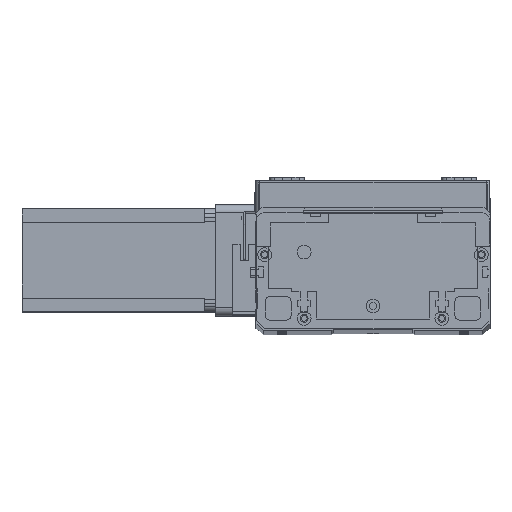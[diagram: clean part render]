
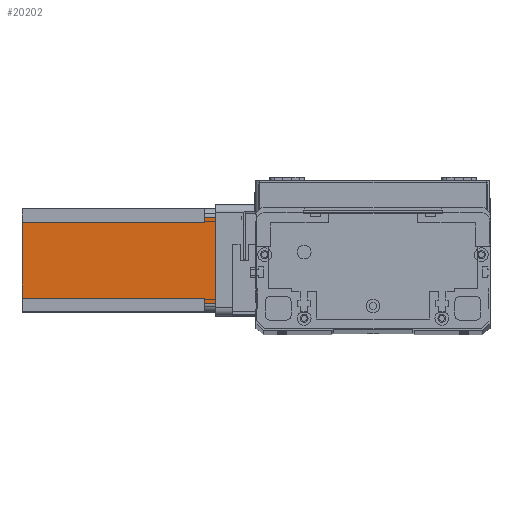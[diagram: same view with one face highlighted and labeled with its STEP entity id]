
A CAD part, top view. The second image highlights one B-rep face of the part: STEP entity #20202.
In plain terms, the highlighted planar face has unit normal (0, 0, 1) as drawn and (0, -1, 0) by its records, which use the part's own axes.
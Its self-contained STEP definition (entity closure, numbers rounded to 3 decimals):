
#33 = VERTEX_POINT ( 'NONE', #15171 ) ;
#75 = ORIENTED_EDGE ( 'NONE', *, *, #24937, .F. ) ;
#1086 = CARTESIAN_POINT ( 'NONE',  ( 8., 0., -112.5 ) ) ;
#1965 = FACE_OUTER_BOUND ( 'NONE', #15355, .T. ) ;
#2175 = DIRECTION ( 'NONE',  ( 1., 0., 0. ) ) ;
#2241 = DIRECTION ( 'NONE',  ( -1., 0., 0. ) ) ;
#2275 = CARTESIAN_POINT ( 'NONE',  ( 0., 0., -112.5 ) ) ;
#3045 = VERTEX_POINT ( 'NONE', #15827 ) ;
#3062 = DIRECTION ( 'NONE',  ( 0., 0., 1. ) ) ;
#4381 = DIRECTION ( 'NONE',  ( 0., 0., -1. ) ) ;
#4941 = VERTEX_POINT ( 'NONE', #12458 ) ;
#4942 = ORIENTED_EDGE ( 'NONE', *, *, #19874, .T. ) ;
#5164 = CARTESIAN_POINT ( 'NONE',  ( 52., 0., -112.5 ) ) ;
#5320 = DIRECTION ( 'NONE',  ( 0., 0., -1. ) ) ;
#7248 = VERTEX_POINT ( 'NONE', #1086 ) ;
#7495 = LINE ( 'NONE', #11116, #12390 ) ;
#7649 = CARTESIAN_POINT ( 'NONE',  ( 52., 0., -6.5 ) ) ;
#7712 = CARTESIAN_POINT ( 'NONE',  ( 5., 0., 0. ) ) ;
#8362 = CARTESIAN_POINT ( 'NONE',  ( 55., 0., -112.5 ) ) ;
#10096 = LINE ( 'NONE', #16724, #21442 ) ;
#10804 = VECTOR ( 'NONE', #3062, 1000. ) ;
#11116 = CARTESIAN_POINT ( 'NONE',  ( 0., 0., -112.5 ) ) ;
#11467 = CARTESIAN_POINT ( 'NONE',  ( 8., 0., -112.5 ) ) ;
#11813 = AXIS2_PLACEMENT_3D ( 'NONE', #2275, #16825, #4381 ) ;
#11850 = VERTEX_POINT ( 'NONE', #5164 ) ;
#12259 = ORIENTED_EDGE ( 'NONE', *, *, #23784, .T. ) ;
#12390 = VECTOR ( 'NONE', #24968, 1000. ) ;
#12458 = CARTESIAN_POINT ( 'NONE',  ( 52., 0., -6.5 ) ) ;
#13425 = VECTOR ( 'NONE', #2241, 1000. ) ;
#13999 = CARTESIAN_POINT ( 'NONE',  ( 55., 0., 0. ) ) ;
#14072 = LINE ( 'NONE', #24532, #13425 ) ;
#14235 = VERTEX_POINT ( 'NONE', #7712 ) ;
#14360 = VECTOR ( 'NONE', #19791, 1000. ) ;
#14793 = PLANE ( 'NONE',  #11813 ) ;
#14906 = CARTESIAN_POINT ( 'NONE',  ( 55., 0., -6.5 ) ) ;
#14994 = LINE ( 'NONE', #7649, #14360 ) ;
#15171 = CARTESIAN_POINT ( 'NONE',  ( 5., 0., -6.5 ) ) ;
#15355 = EDGE_LOOP ( 'NONE', ( #23114, #16861, #15946, #4942, #16619, #19464, #12259, #75 ) ) ;
#15827 = CARTESIAN_POINT ( 'NONE',  ( 8., 0., -6.5 ) ) ;
#15946 = ORIENTED_EDGE ( 'NONE', *, *, #23612, .F. ) ;
#16024 = VECTOR ( 'NONE', #5320, 1000. ) ;
#16619 = ORIENTED_EDGE ( 'NONE', *, *, #20866, .F. ) ;
#16724 = CARTESIAN_POINT ( 'NONE',  ( 0., 0., 0. ) ) ;
#16825 = DIRECTION ( 'NONE',  ( 0., -1., 0. ) ) ;
#16861 = ORIENTED_EDGE ( 'NONE', *, *, #19034, .T. ) ;
#17260 = LINE ( 'NONE', #19652, #16024 ) ;
#17930 = EDGE_CURVE ( 'NONE', #4941, #21612, #14994, .T. ) ;
#19034 = EDGE_CURVE ( 'NONE', #21612, #20557, #20662, .T. ) ;
#19464 = ORIENTED_EDGE ( 'NONE', *, *, #22364, .F. ) ;
#19509 = VECTOR ( 'NONE', #23826, 1000. ) ;
#19652 = CARTESIAN_POINT ( 'NONE',  ( 5., 0., -112.5 ) ) ;
#19791 = DIRECTION ( 'NONE',  ( 1., 0., 0. ) ) ;
#19874 = EDGE_CURVE ( 'NONE', #14235, #33, #17260, .T. ) ;
#20202 = ADVANCED_FACE ( 'NONE', ( #1965 ), #14793, .T. ) ;
#20463 = DIRECTION ( 'NONE',  ( 0., 0., 1. ) ) ;
#20557 = VERTEX_POINT ( 'NONE', #13999 ) ;
#20662 = LINE ( 'NONE', #8362, #25786 ) ;
#20866 = EDGE_CURVE ( 'NONE', #3045, #33, #14072, .T. ) ;
#21442 = VECTOR ( 'NONE', #2175, 1000. ) ;
#21612 = VERTEX_POINT ( 'NONE', #14906 ) ;
#21918 = CARTESIAN_POINT ( 'NONE',  ( 52., 0., -112.5 ) ) ;
#22086 = LINE ( 'NONE', #11467, #10804 ) ;
#22364 = EDGE_CURVE ( 'NONE', #7248, #3045, #22086, .T. ) ;
#23114 = ORIENTED_EDGE ( 'NONE', *, *, #17930, .T. ) ;
#23612 = EDGE_CURVE ( 'NONE', #14235, #20557, #10096, .T. ) ;
#23784 = EDGE_CURVE ( 'NONE', #7248, #11850, #7495, .T. ) ;
#23826 = DIRECTION ( 'NONE',  ( 0., 0., -1. ) ) ;
#24071 = LINE ( 'NONE', #21918, #19509 ) ;
#24532 = CARTESIAN_POINT ( 'NONE',  ( 8., 0., -6.5 ) ) ;
#24937 = EDGE_CURVE ( 'NONE', #4941, #11850, #24071, .T. ) ;
#24968 = DIRECTION ( 'NONE',  ( 1., 0., 0. ) ) ;
#25786 = VECTOR ( 'NONE', #20463, 1000. ) ;
